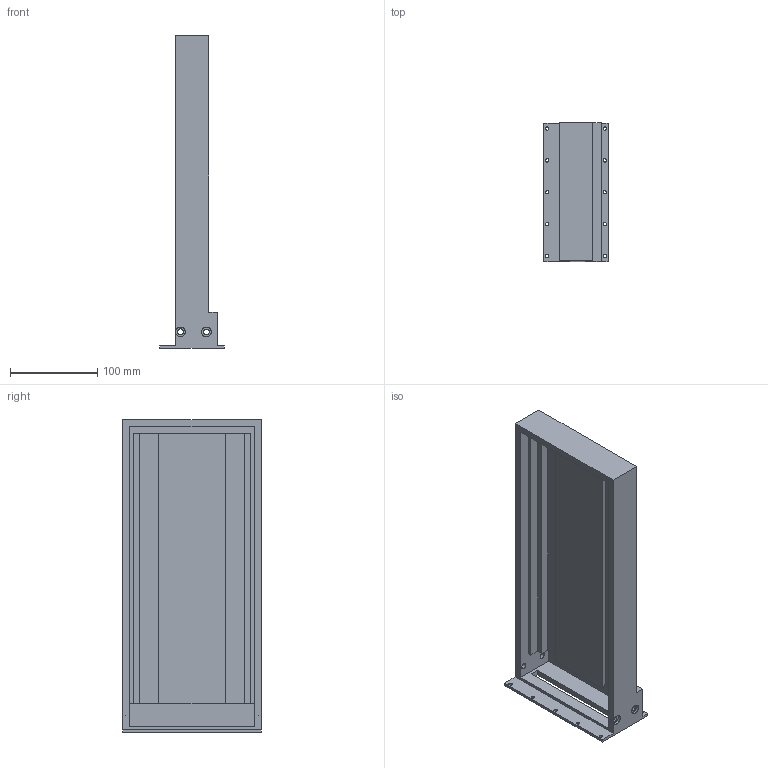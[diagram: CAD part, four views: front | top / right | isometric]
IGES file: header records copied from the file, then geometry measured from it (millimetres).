
Start section: SolidWorks IGES FILE using analytic representation for surfaces
Global section: file name: G:\Work In Progress\900252_ROV Marker Tool\900252-Release_Drawings\Clip Case-REV_B.IGS; native system: SolidWorks 2003 by SolidWorks Corporation; preprocessor: Version 5.3; author: mob; date: 030129.110512; units: inch
Bounding box: 73.66 x 158.75 x 358.77 mm (x, y, z)
Surface area: 212227.3 mm2 (no closed solid volume)
Topology: 0 solids, 0 shells, 75 faces, 1488 edges, 1488 vertices
Faces by surface type: bspline 39, revolution 36
